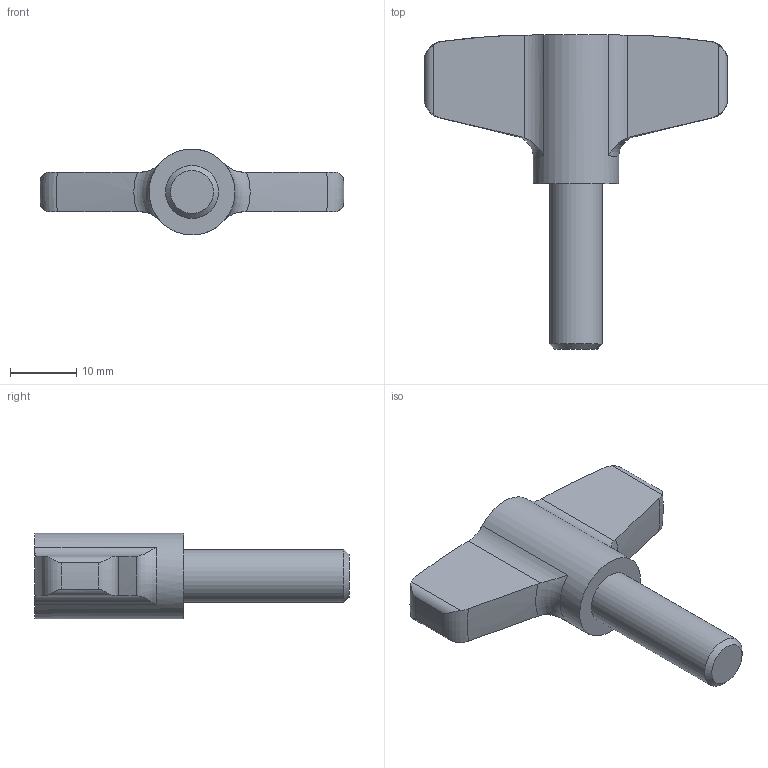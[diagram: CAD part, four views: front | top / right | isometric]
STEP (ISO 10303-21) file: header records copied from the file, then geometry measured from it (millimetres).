
FILE_DESCRIPTION( ( 'STEP AP203' ), '1' );
FILE_NAME( 'C:/Temp/Ganter_Step_05_03_2020/data/2_2/gn_835/Stainless Steel-Wing screw GN 835-46-M8-25-MT.stp', '2020-03-05T12:19:31', ( 'License CC BY-ND 4.0' ), ( 'CADENAS' ), ' ', 'PARTsolutions', ' ' );
FILE_SCHEMA( ( 'CONFIG_CONTROL_DESIGN' ) );
Length unit declared in the file: millimetre
Products named in the file (1): _Stainless Steel-Wing screw GN 835-46-M8-25-MT
Bounding box: 45.98 x 47.5 x 13 mm (x, y, z)
Volume: 6953.3 mm3; surface area: 2991.2 mm2
Topology: 1 solids, 1 shells, 30 faces, 76 edges, 49 vertices
Faces by surface type: cylinder 12, plane 7, torus 6, cone 3, bspline 2
Full cylindrical faces by diameter (mm): 8 x1, 13 x1
Entity records: 1162 total; most frequent: CARTESIAN_POINT 473, ORIENTED_EDGE 144, DIRECTION 114, EDGE_CURVE 72, AXIS2_PLACEMENT_3D 49, VERTEX_POINT 48, B_SPLINE_CURVE_WITH_KNOTS 36, EDGE_LOOP 34
